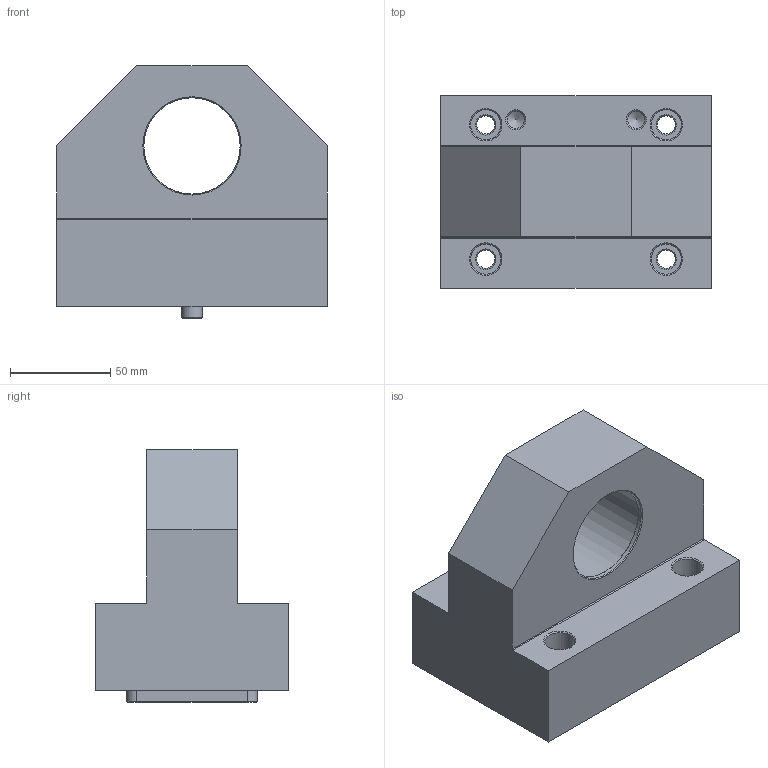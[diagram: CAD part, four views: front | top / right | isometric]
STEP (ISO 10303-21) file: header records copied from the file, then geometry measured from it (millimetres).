
FILE_DESCRIPTION(/* description */ (''),/* implementation_level */ '2;1');
FILE_NAME(/* name */ 'YR01.02.00.051_Блок подшипников.stp',/* time_stamp */ '2025-02-06T16:16:26+03:00',/* author */ (''),/* organization */ (''),/* preprocessor_version */ 'ST-DEVELOPER v18.1',/* originating_system */ 'SIEMENS PLM Software NX 1973',/* authorisation */ '');
FILE_SCHEMA (('AUTOMOTIVE_DESIGN { 1 0 10303 214 3 1 1 1 }'));
Length unit declared in the file: millimetre
Products named in the file (1): wp_YR01.02.00.051
Bounding box: 135 x 96 x 126 mm (x, y, z)
Volume: 842721.4 mm3; surface area: 80296.5 mm2
Topology: 1 solids, 1 shells, 67 faces, 163 edges, 106 vertices
Faces by surface type: plane 24, cone 23, cylinder 19, torus 1
Full cylindrical faces by diameter (mm): 6 x1, 8.5 x2, 9 x4, 15 x4, 48 x1, 52 x2, 55 x1
Entity records: 1654 total; most frequent: DIRECTION 300, CARTESIAN_POINT 261, ORIENTED_EDGE 210, AXIS2_PLACEMENT_3D 127, EDGE_LOOP 122, FACE_BOUND 108, EDGE_CURVE 105, VERTEX_POINT 88
